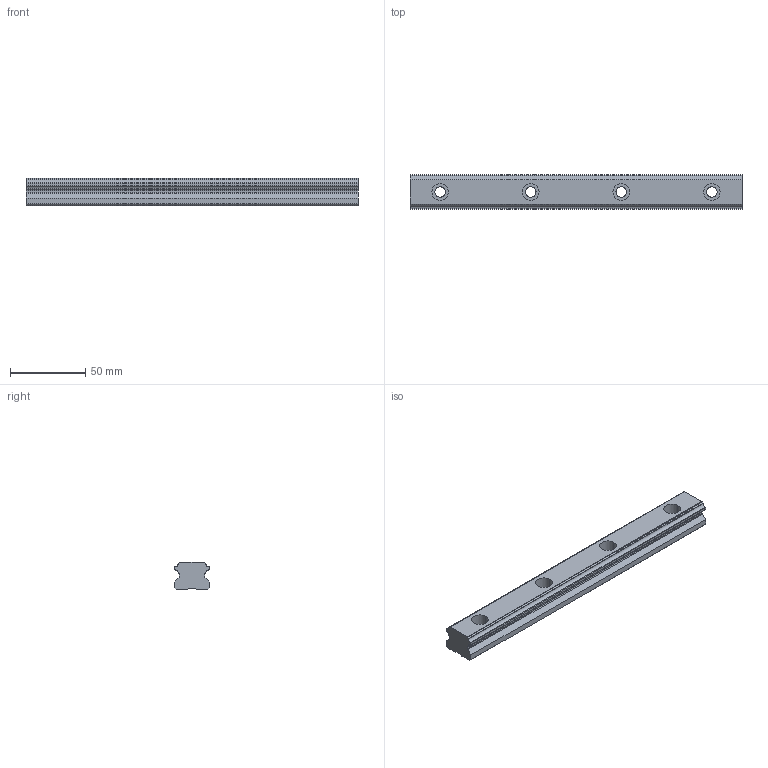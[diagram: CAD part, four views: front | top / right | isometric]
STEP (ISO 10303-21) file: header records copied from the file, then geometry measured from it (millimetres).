
FILE_DESCRIPTION(('starvars output'),'2;1');
FILE_NAME('cv20190626225636000043796.stp','22:56:36 2019/06/26',( 'Thomas Industrial Network Germany GmbH'),( 'Thomas Industrial Network Germany GmbH'),'unknown preprocess','ACIS' ,'unknown authorization');
FILE_SCHEMA(('CONFIG_CONTROL_DESIGN {UNKNOWN IMPLEMENTATION LEVEL}'));
Length unit declared in the file: millimetre
Products named in the file (1): PRODUCT_ID_1
Bounding box: 220 x 23 x 18 mm (x, y, z)
Volume: 74847.4 mm3; surface area: 20818.3 mm2
Topology: 1 solids, 1 shells, 72 faces, 210 edges, 140 vertices
Faces by surface type: plane 38, cylinder 34
Entity records: 2211 total; most frequent: ORIENTED_EDGE 420, CARTESIAN_POINT 354, DIRECTION 334, EDGE_CURVE 210, VERTEX_POINT 140, AXIS2_PLACEMENT_3D 120, VECTOR 94, LINE 94
